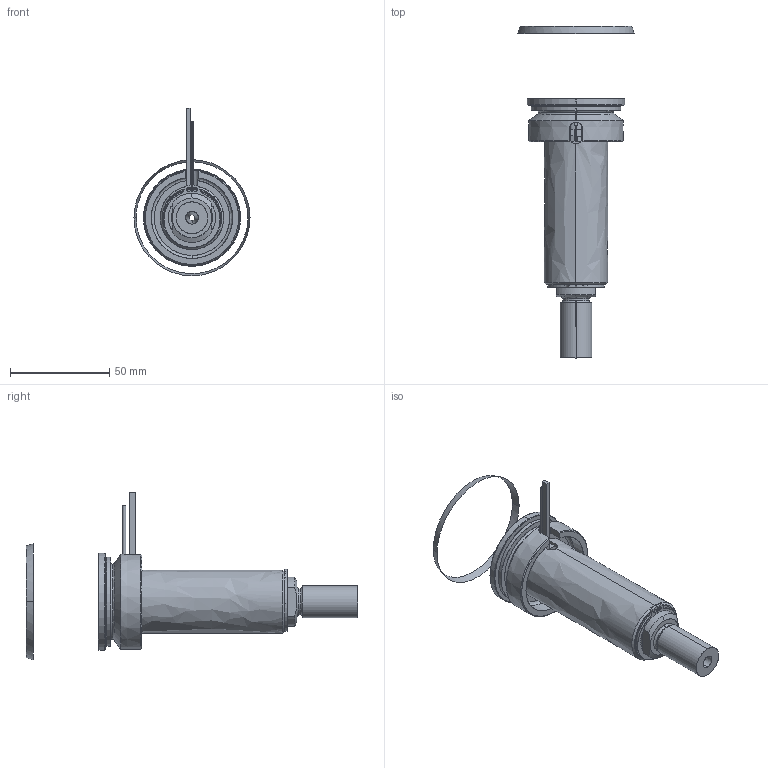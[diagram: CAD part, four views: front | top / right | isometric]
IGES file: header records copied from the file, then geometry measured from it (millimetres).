
Start section: SolidWorks IGES file using analytic representation for surfaces
Global section: file name: C:\Documents and Settings\ws-20\Desktop\TEMPORANEA\UGBE5002-S-A-P-3 [Ød-3.0 P-25 ØC-13].IGS; native system: SolidWorks 2012; preprocessor: SolidWorks 2012; author: ws-20; date: 120306.161920; units: millimetre
Bounding box: 58.57 x 167.44 x 84.59 mm (x, y, z)
Surface area: 43082.5 mm2 (no closed solid volume)
Topology: 0 solids, 0 shells, 113 faces, 2130 edges, 2130 vertices
Faces by surface type: revolution 70, bspline 43
